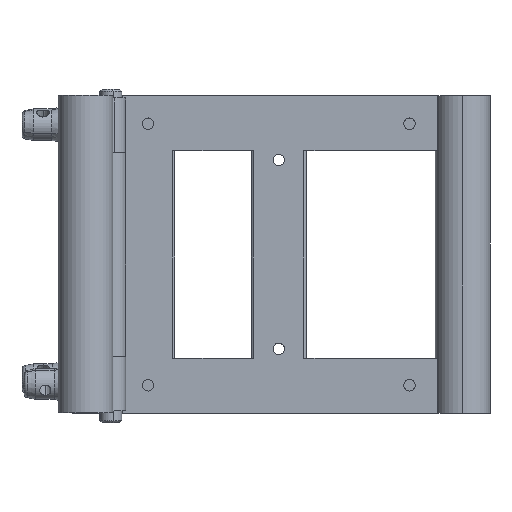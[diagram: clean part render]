
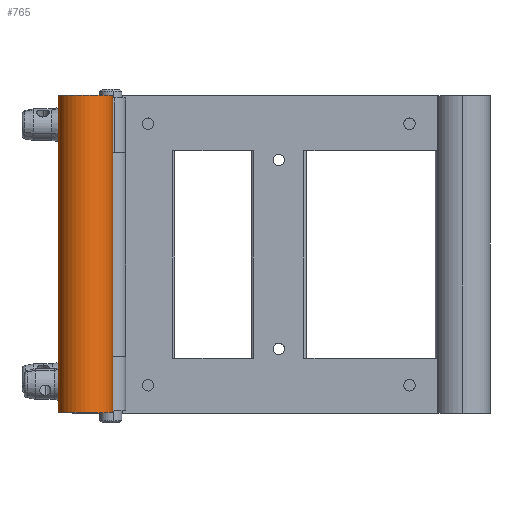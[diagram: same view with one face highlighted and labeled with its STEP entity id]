
A CAD part, top view. The second image highlights one B-rep face of the part: STEP entity #765.
In plain terms, the highlighted cylindrical face has radius 25 mm (diameter 50 mm), a partial arc.
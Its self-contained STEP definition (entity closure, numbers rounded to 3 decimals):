
#741 = VERTEX_POINT ( 'NONE', #2196 ) ;
#742 = ORIENTED_EDGE ( 'NONE', *, *, #743, .T. ) ;
#743 = EDGE_CURVE ( 'NONE', #741, #744, #2195, .T. ) ;
#744 = VERTEX_POINT ( 'NONE', #2191 ) ;
#745 = ORIENTED_EDGE ( 'NONE', *, *, #746, .F. ) ;
#746 = EDGE_CURVE ( 'NONE', #747, #744, #2190, .T. ) ;
#747 = VERTEX_POINT ( 'NONE', #2252 ) ;
#748 = ORIENTED_EDGE ( 'NONE', *, *, #749, .F. ) ;
#749 = EDGE_CURVE ( 'NONE', #769, #747, #2251, .T. ) ;
#765 = ADVANCED_FACE ( 'NONE', ( #2490 ), #2488, .T. ) ;
#766 = EDGE_LOOP ( 'NONE', ( #767, #742, #745, #748 ) ) ;
#767 = ORIENTED_EDGE ( 'NONE', *, *, #768, .T. ) ;
#768 = EDGE_CURVE ( 'NONE', #769, #741, #2489, .T. ) ;
#769 = VERTEX_POINT ( 'NONE', #2479 ) ;
#2190 = CIRCLE ( 'NONE', #2256, 25. ) ;
#2191 = CARTESIAN_POINT ( 'NONE',  ( 313., 0., -12.5 ) ) ;
#2192 = DIRECTION ( 'NONE',  ( 0., 1., 0. ) ) ;
#2193 = VECTOR ( 'NONE', #2192, 1000. ) ;
#2194 = CARTESIAN_POINT ( 'NONE',  ( 313., -290., -12.5 ) ) ;
#2195 = LINE ( 'NONE', #2194, #2193 ) ;
#2196 = CARTESIAN_POINT ( 'NONE',  ( 313., -290., -12.5 ) ) ;
#2248 = DIRECTION ( 'NONE',  ( 0., 1., 0. ) ) ;
#2249 = VECTOR ( 'NONE', #2248, 1000. ) ;
#2250 = CARTESIAN_POINT ( 'NONE',  ( 313., -290., 37.5 ) ) ;
#2251 = LINE ( 'NONE', #2250, #2249 ) ;
#2252 = CARTESIAN_POINT ( 'NONE',  ( 313., 0., 37.5 ) ) ;
#2253 = DIRECTION ( 'NONE',  ( 0., 0., 1. ) ) ;
#2254 = DIRECTION ( 'NONE',  ( 0., 1., 0. ) ) ;
#2255 = CARTESIAN_POINT ( 'NONE',  ( 313., 0., 12.5 ) ) ;
#2256 = AXIS2_PLACEMENT_3D ( 'NONE', #2255, #2254, #2253 ) ;
#2479 = CARTESIAN_POINT ( 'NONE',  ( 313., -290., 37.5 ) ) ;
#2480 = DIRECTION ( 'NONE',  ( 0., 0., 1. ) ) ;
#2481 = DIRECTION ( 'NONE',  ( 0., 1., 0. ) ) ;
#2482 = CARTESIAN_POINT ( 'NONE',  ( 313., -290., 12.5 ) ) ;
#2483 = AXIS2_PLACEMENT_3D ( 'NONE', #2482, #2481, #2480 ) ;
#2484 = DIRECTION ( 'NONE',  ( 0., 0., 1. ) ) ;
#2485 = DIRECTION ( 'NONE',  ( 0., 1., 0. ) ) ;
#2486 = CARTESIAN_POINT ( 'NONE',  ( 313., -290., 12.5 ) ) ;
#2487 = AXIS2_PLACEMENT_3D ( 'NONE', #2486, #2485, #2484 ) ;
#2488 = CYLINDRICAL_SURFACE ( 'NONE', #2487, 25. ) ;
#2489 = CIRCLE ( 'NONE', #2483, 25. ) ;
#2490 = FACE_OUTER_BOUND ( 'NONE', #766, .T. ) ;
